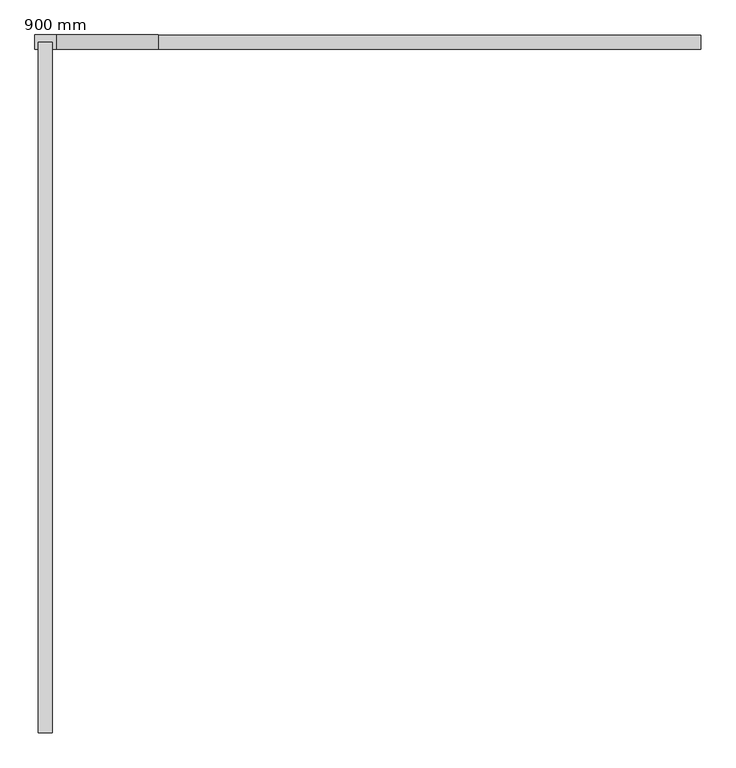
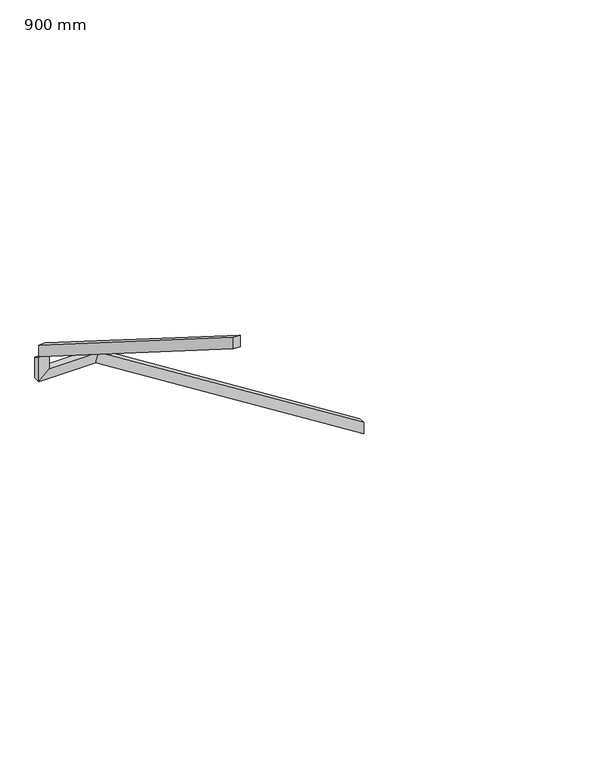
"""IFC4 building model written with IfcOpenShell, lengths in millimetres: railing geometry, 900 mm."""

from ifc_helpers import new_model, si_unit, origin, place, context, project, spatial, faceted_brep, source, transform, mapped, element, save


def railing_900_mm_52bd7b41(model_context):
    return source(origin(), model_context, "Body", "Brep", [
        faceted_brep([(-4520.034414, 8063.0835606, -1923.5294118), (-4520.034414, 8012.2835606, -1923.5294118), (-4520.034414, 8012.2835606, -2013.6008323), (-4520.034414, 8063.0835606, -2013.6008323), (-6480.034414, 8063.0835606, -688.2352941), (-6480.034414, 8012.2835606, -688.2352941), (-6502.0437346, 8012.2835606, -764.4352941), (-6502.0437346, 8063.0835606, -764.4352941), (-6848.312268, 8063.0835606, -688.2352941), (-6848.312268, 8012.2835606, -688.2352941), (-6924.512268, 8012.2835606, -764.4352941), (-6924.512268, 8063.0835606, -764.4352941), (-6848.312268, 8063.0835606, -602.0882273), (-6924.512268, 8063.0835606, -602.0882273), (-6924.512268, 8012.2835606, -570.0714206), (-6848.312268, 8012.2835606, -570.0714206)], [[[0, 1, 2, 3]], [[1, 0, 4, 5]], [[2, 1, 5, 6]], [[3, 2, 6, 7]], [[0, 3, 7, 4]], [[5, 4, 8, 9]], [[6, 5, 9, 10]], [[7, 6, 10, 11]], [[4, 7, 11, 8]], [[12, 13, 14, 15]], [[9, 8, 12, 15]], [[10, 9, 15, 14]], [[11, 10, 14, 13]], [[8, 11, 13, 12]]]),
        faceted_brep([(-6911.812268, 8037.6835606, -496.0084034), (-6861.012268, 8037.6835606, -496.0084034), (-6861.012268, 8037.6835606, -586.0798239), (-6911.812268, 8037.6835606, -586.0798239), (-6911.812268, 5542.6835606, 1076.4705882), (-6911.812268, 5542.6835606, 986.3991677), (-6861.012268, 5542.6835606, 986.3991677), (-6861.012268, 5542.6835606, 1076.4705882)], [[[0, 1, 2, 3]], [[4, 5, 6, 7]], [[1, 0, 4, 7]], [[2, 1, 7, 6]], [[3, 2, 6, 5]], [[0, 3, 5, 4]]]),
    ])


if __name__ == "__main__":
    model = new_model("IFC4")
    model_context = context("Model", 3, world=origin())
    ifc_project = project(units=[si_unit("LENGTHUNIT", "METRE", prefix="MILLI")], contexts=[model_context])
    site = spatial("IfcSite", under=ifc_project)
    building = spatial("IfcBuilding", under=site)
    placement = place(None, origin())
    railing_900_mm_shape = railing_900_mm_52bd7b41(model_context)
    element("IfcRailing", 1, ObjectType="900 mm", at=placement, inside=building, context=model_context, shape_type="MappedRepresentation", body=[
        mapped(railing_900_mm_shape, transform((0.0, 0.0, 0.0), x_axis=(1.0, 0.0, 0.0), y_axis=(0.0, 1.0, 0.0), z_axis=(0.0, 0.0, 1.0))),
    ])
    save(model, "model.ifc")
